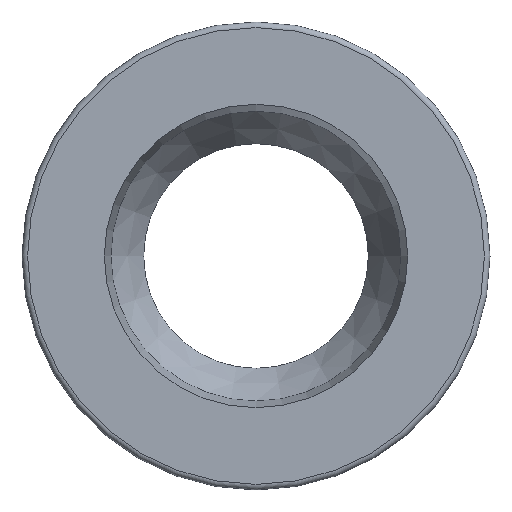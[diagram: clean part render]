
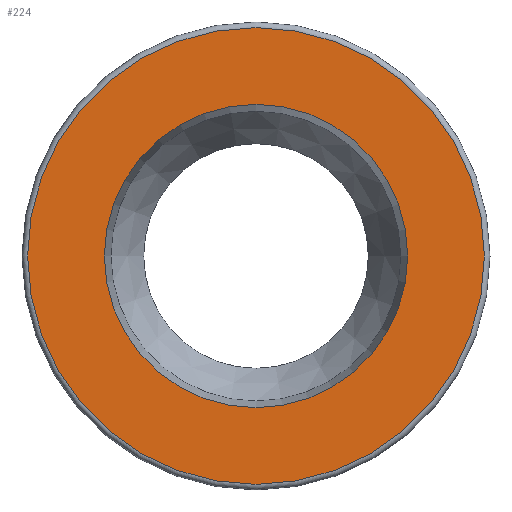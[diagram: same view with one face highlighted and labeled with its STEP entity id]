
A CAD part, left-side view. The second image highlights one B-rep face of the part: STEP entity #224.
In plain terms, the highlighted planar face has unit normal (-1, 0, 0).
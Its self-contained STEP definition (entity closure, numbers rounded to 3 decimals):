
#20=FACE_BOUND('',#66,.T.);
#24=PLANE('',#274);
#49=FACE_OUTER_BOUND('',#65,.T.);
#65=EDGE_LOOP('',(#176));
#66=EDGE_LOOP('',(#177));
#87=CIRCLE('',#270,12.2);
#90=CIRCLE('',#275,8.1);
#109=VERTEX_POINT('',#404);
#112=VERTEX_POINT('',#414);
#132=EDGE_CURVE('',#109,#109,#87,.T.);
#136=EDGE_CURVE('',#112,#112,#90,.T.);
#176=ORIENTED_EDGE('',*,*,#132,.F.);
#177=ORIENTED_EDGE('',*,*,#136,.T.);
#224=ADVANCED_FACE('',(#49,#20),#24,.T.);
#270=AXIS2_PLACEMENT_3D('',#406,#325,#326);
#274=AXIS2_PLACEMENT_3D('',#413,#334,#335);
#275=AXIS2_PLACEMENT_3D('',#415,#336,#337);
#325=DIRECTION('center_axis',(1.,0.,0.));
#326=DIRECTION('ref_axis',(0.,-1.,0.));
#334=DIRECTION('center_axis',(-1.,0.,0.));
#335=DIRECTION('ref_axis',(0.,0.,1.));
#336=DIRECTION('center_axis',(1.,0.,0.));
#337=DIRECTION('ref_axis',(0.,1.,0.));
#404=CARTESIAN_POINT('',(0.,0.,12.2));
#406=CARTESIAN_POINT('Origin',(0.,0.,
0.));
#413=CARTESIAN_POINT('Origin',(0.,10.3,0.));
#414=CARTESIAN_POINT('',(0.,-8.1,0.));
#415=CARTESIAN_POINT('Origin',(0.,0.,
0.));
